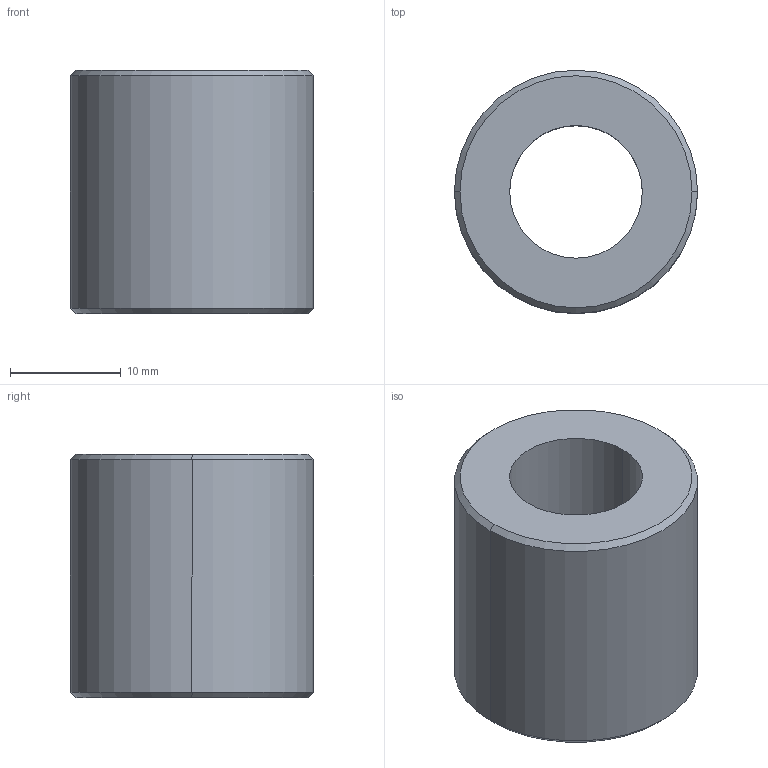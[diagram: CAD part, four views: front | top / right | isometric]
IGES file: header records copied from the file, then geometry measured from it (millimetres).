
Start section: 3D InterOp IGES (Version 21 0 1), Spatial Corp. Copyright (c) 1999-2007.
Global section: file name: TMON-12L.igs; native system: Spatial Corp.; preprocessor: 3D InterOp GENERIC/IGES 3.0; author: Noname; organization: Noname; date: 20220204.162423; units: millimetre
Bounding box: 22 x 22 x 22 mm (x, y, z)
Surface area: 2842.8 mm2 (no closed solid volume)
Topology: 0 solids, 0 shells, 10 faces, 40 edges, 40 vertices
Faces by surface type: revolution 8, extrusion 2
